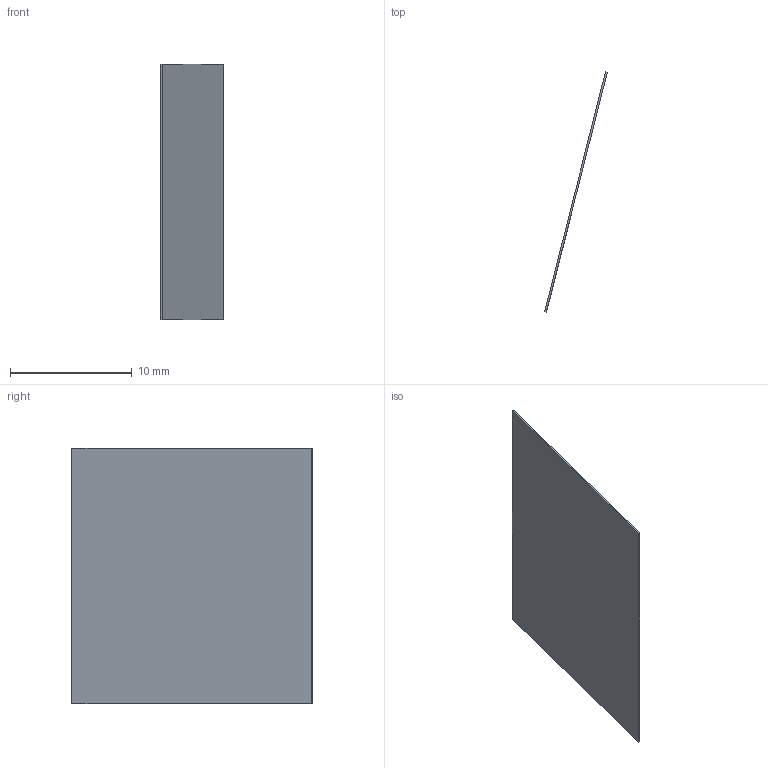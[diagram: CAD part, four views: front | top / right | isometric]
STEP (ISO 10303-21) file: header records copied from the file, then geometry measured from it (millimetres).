
FILE_DESCRIPTION(('Open CASCADE Model'),'2;1');
FILE_NAME('Open CASCADE Shape Model','2026-10-04T02:31:47',('Author'),( 'Open CASCADE'),'Open CASCADE STEP processor 8.0','Open CASCADE 8.0' ,'Unknown');
FILE_SCHEMA(('AUTOMOTIVE_DESIGN { 1 0 10303 214 1 1 1 1 }'));
Length unit declared in the file: millimetre
Products named in the file (1): Open CASCADE STEP translator 8.0 410
Bounding box: 5.15 x 19.72 x 21 mm (x, y, z)
Volume: 64 mm3; surface area: 865.2 mm2
Topology: 1 solids, 1 shells, 6 faces, 12 edges, 8 vertices
Faces by surface type: plane 6
Entity records: 322 total; most frequent: CARTESIAN_POINT 51, DIRECTION 50, LINE 36, VECTOR 36, ORIENTED_EDGE 24, PCURVE 24, DEFINITIONAL_REPRESENTATION 24, EDGE_CURVE 12
